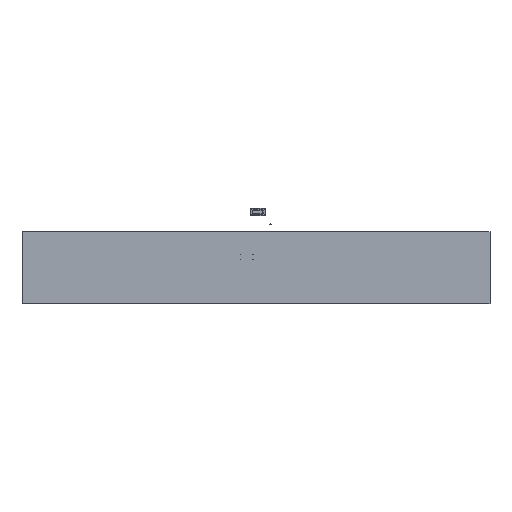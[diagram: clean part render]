
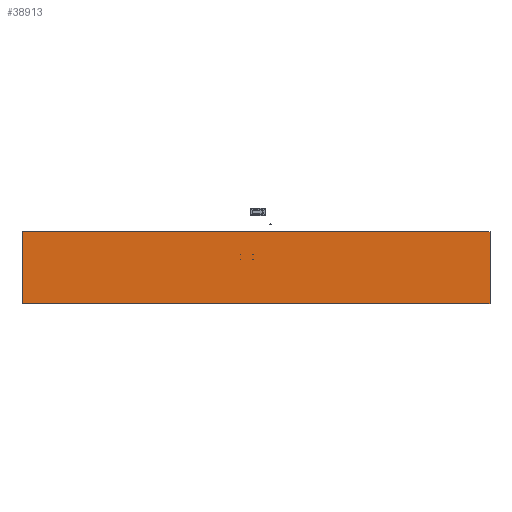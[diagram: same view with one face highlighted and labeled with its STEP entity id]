
A CAD part, front view. The second image highlights one B-rep face of the part: STEP entity #38913.
In plain terms, the highlighted planar face has unit normal (0, -1, 0).
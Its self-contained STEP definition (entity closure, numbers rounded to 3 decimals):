
#645 = DIRECTION ( 'NONE',  ( 0., 1., 0. ) ) ;
#2663 = CARTESIAN_POINT ( 'NONE',  ( -6500., -100., -1000. ) ) ;
#5107 = VECTOR ( 'NONE', #50094, 1000. ) ;
#5933 = ORIENTED_EDGE ( 'NONE', *, *, #34978, .T. ) ;
#7329 = EDGE_CURVE ( 'NONE', #56629, #15318, #90227, .T. ) ;
#8237 = DIRECTION ( 'NONE',  ( 0., 0., 1. ) ) ;
#8722 = VERTEX_POINT ( 'NONE', #83268 ) ;
#11464 = CIRCLE ( 'NONE', #25912, 5. ) ;
#11577 = VERTEX_POINT ( 'NONE', #63188 ) ;
#11610 = ORIENTED_EDGE ( 'NONE', *, *, #14356, .F. ) ;
#11662 = EDGE_CURVE ( 'NONE', #36016, #25795, #11464, .T. ) ;
#12088 = CARTESIAN_POINT ( 'NONE',  ( -85., -100., 375. ) ) ;
#12586 = EDGE_CURVE ( 'NONE', #56040, #8722, #59741, .T. ) ;
#13967 = VERTEX_POINT ( 'NONE', #30501 ) ;
#14177 = CARTESIAN_POINT ( 'NONE',  ( -85., -100., 365. ) ) ;
#14356 = EDGE_CURVE ( 'NONE', #16727, #71080, #36323, .T. ) ;
#14840 = DIRECTION ( 'NONE',  ( 0., 0., 1. ) ) ;
#15318 = VERTEX_POINT ( 'NONE', #12088 ) ;
#16727 = VERTEX_POINT ( 'NONE', #24708 ) ;
#17856 = DIRECTION ( 'NONE',  ( 0., 0., 1. ) ) ;
#18182 = CIRCLE ( 'NONE', #86808, 5. ) ;
#18250 = AXIS2_PLACEMENT_3D ( 'NONE', #36496, #44963, #75468 ) ;
#20164 = EDGE_CURVE ( 'NONE', #71080, #69695, #61664, .T. ) ;
#22571 = CIRCLE ( 'NONE', #32138, 5. ) ;
#22730 = FACE_BOUND ( 'NONE', #95982, .T. ) ;
#23024 = DIRECTION ( 'NONE',  ( 0., 1., 0. ) ) ;
#23684 = CIRCLE ( 'NONE', #89068, 5. ) ;
#24221 = CARTESIAN_POINT ( 'NONE',  ( -85., -100., 220. ) ) ;
#24708 = CARTESIAN_POINT ( 'NONE',  ( 6500., -100., 1000. ) ) ;
#25795 = VERTEX_POINT ( 'NONE', #67435 ) ;
#25912 = AXIS2_PLACEMENT_3D ( 'NONE', #24221, #78177, #77683 ) ;
#27684 = EDGE_CURVE ( 'NONE', #15318, #56629, #22571, .T. ) ;
#27691 = LINE ( 'NONE', #98141, #37239 ) ;
#27756 = CIRCLE ( 'NONE', #86771, 5. ) ;
#28276 = CARTESIAN_POINT ( 'NONE',  ( -435., -100., 370. ) ) ;
#28436 = AXIS2_PLACEMENT_3D ( 'NONE', #54180, #45704, #8237 ) ;
#28610 = DIRECTION ( 'NONE',  ( 0., 1., 0. ) ) ;
#29739 = FACE_BOUND ( 'NONE', #56977, .T. ) ;
#30501 = CARTESIAN_POINT ( 'NONE',  ( -6500., -100., 1000. ) ) ;
#30727 = FACE_BOUND ( 'NONE', #96029, .T. ) ;
#31138 = DIRECTION ( 'NONE',  ( 0., 0., 1. ) ) ;
#32138 = AXIS2_PLACEMENT_3D ( 'NONE', #76807, #84299, #14840 ) ;
#34831 = CARTESIAN_POINT ( 'NONE',  ( 6500., -100., -1000. ) ) ;
#34978 = EDGE_CURVE ( 'NONE', #25795, #36016, #18182, .T. ) ;
#36016 = VERTEX_POINT ( 'NONE', #87371 ) ;
#36323 = LINE ( 'NONE', #34831, #96854 ) ;
#36496 = CARTESIAN_POINT ( 'NONE',  ( -435., -100., 370. ) ) ;
#37239 = VECTOR ( 'NONE', #51654, 1000. ) ;
#37640 = CARTESIAN_POINT ( 'NONE',  ( -435., -100., 220. ) ) ;
#38002 = EDGE_CURVE ( 'NONE', #8722, #56040, #23684, .T. ) ;
#38483 = ORIENTED_EDGE ( 'NONE', *, *, #96561, .T. ) ;
#38913 = ADVANCED_FACE ( 'NONE', ( #22730, #30727, #69692, #29739, #53187 ), #83695, .F. ) ;
#41284 = ORIENTED_EDGE ( 'NONE', *, *, #95946, .T. ) ;
#44963 = DIRECTION ( 'NONE',  ( 0., 1., 0. ) ) ;
#45704 = DIRECTION ( 'NONE',  ( 0., 1., 0. ) ) ;
#46305 = ORIENTED_EDGE ( 'NONE', *, *, #38002, .T. ) ;
#46924 = CIRCLE ( 'NONE', #86837, 5. ) ;
#48444 = ORIENTED_EDGE ( 'NONE', *, *, #68722, .F. ) ;
#49130 = CARTESIAN_POINT ( 'NONE',  ( -6500., -100., 1000. ) ) ;
#50094 = DIRECTION ( 'NONE',  ( 1., 0., 0. ) ) ;
#51654 = DIRECTION ( 'NONE',  ( 0., 0., 1. ) ) ;
#53187 = FACE_OUTER_BOUND ( 'NONE', #75568, .T. ) ;
#54180 = CARTESIAN_POINT ( 'NONE',  ( 0., -100., 0. ) ) ;
#55833 = CARTESIAN_POINT ( 'NONE',  ( -85., -100., 370. ) ) ;
#56040 = VERTEX_POINT ( 'NONE', #76970 ) ;
#56622 = LINE ( 'NONE', #49130, #5107 ) ;
#56629 = VERTEX_POINT ( 'NONE', #14177 ) ;
#56636 = CARTESIAN_POINT ( 'NONE',  ( -6500., -100., -1000. ) ) ;
#56977 = EDGE_LOOP ( 'NONE', ( #5933, #82310 ) ) ;
#59611 = ORIENTED_EDGE ( 'NONE', *, *, #27684, .T. ) ;
#59646 = VECTOR ( 'NONE', #71126, 1000. ) ;
#59694 = ORIENTED_EDGE ( 'NONE', *, *, #20164, .F. ) ;
#59741 = CIRCLE ( 'NONE', #18250, 5. ) ;
#60428 = ORIENTED_EDGE ( 'NONE', *, *, #12586, .T. ) ;
#60957 = EDGE_LOOP ( 'NONE', ( #60428, #46305 ) ) ;
#61664 = LINE ( 'NONE', #2663, #59646 ) ;
#63188 = CARTESIAN_POINT ( 'NONE',  ( -435., -100., 225. ) ) ;
#64329 = ORIENTED_EDGE ( 'NONE', *, *, #7329, .T. ) ;
#65383 = EDGE_CURVE ( 'NONE', #13967, #16727, #56622, .T. ) ;
#67435 = CARTESIAN_POINT ( 'NONE',  ( -85., -100., 225. ) ) ;
#68722 = EDGE_CURVE ( 'NONE', #69695, #13967, #27691, .T. ) ;
#69692 = FACE_BOUND ( 'NONE', #60957, .T. ) ;
#69695 = VERTEX_POINT ( 'NONE', #56636 ) ;
#71080 = VERTEX_POINT ( 'NONE', #76458 ) ;
#71126 = DIRECTION ( 'NONE',  ( -1., 0., 0. ) ) ;
#72275 = DIRECTION ( 'NONE',  ( 0., 0., 1. ) ) ;
#75468 = DIRECTION ( 'NONE',  ( 0., 0., 1. ) ) ;
#75568 = EDGE_LOOP ( 'NONE', ( #11610, #87420, #48444, #59694 ) ) ;
#76458 = CARTESIAN_POINT ( 'NONE',  ( 6500., -100., -1000. ) ) ;
#76807 = CARTESIAN_POINT ( 'NONE',  ( -85., -100., 370. ) ) ;
#76970 = CARTESIAN_POINT ( 'NONE',  ( -435., -100., 375. ) ) ;
#77683 = DIRECTION ( 'NONE',  ( 0., 0., 1. ) ) ;
#78031 = VERTEX_POINT ( 'NONE', #86090 ) ;
#78177 = DIRECTION ( 'NONE',  ( 0., 1., 0. ) ) ;
#80806 = DIRECTION ( 'NONE',  ( 0., 0., -1. ) ) ;
#82310 = ORIENTED_EDGE ( 'NONE', *, *, #11662, .T. ) ;
#82983 = DIRECTION ( 'NONE',  ( 0., 0., 1. ) ) ;
#83268 = CARTESIAN_POINT ( 'NONE',  ( -435., -100., 365. ) ) ;
#83695 = PLANE ( 'NONE',  #28436 ) ;
#84299 = DIRECTION ( 'NONE',  ( 0., 1., 0. ) ) ;
#86090 = CARTESIAN_POINT ( 'NONE',  ( -435., -100., 215. ) ) ;
#86336 = DIRECTION ( 'NONE',  ( 0., 1., 0. ) ) ;
#86771 = AXIS2_PLACEMENT_3D ( 'NONE', #37640, #645, #31138 ) ;
#86808 = AXIS2_PLACEMENT_3D ( 'NONE', #90099, #28610, #97088 ) ;
#86837 = AXIS2_PLACEMENT_3D ( 'NONE', #91481, #23024, #82983 ) ;
#87371 = CARTESIAN_POINT ( 'NONE',  ( -85., -100., 215. ) ) ;
#87420 = ORIENTED_EDGE ( 'NONE', *, *, #65383, .F. ) ;
#88629 = AXIS2_PLACEMENT_3D ( 'NONE', #55833, #86336, #17856 ) ;
#89068 = AXIS2_PLACEMENT_3D ( 'NONE', #28276, #94798, #72275 ) ;
#90099 = CARTESIAN_POINT ( 'NONE',  ( -85., -100., 220. ) ) ;
#90227 = CIRCLE ( 'NONE', #88629, 5. ) ;
#91481 = CARTESIAN_POINT ( 'NONE',  ( -435., -100., 220. ) ) ;
#94798 = DIRECTION ( 'NONE',  ( 0., 1., 0. ) ) ;
#95946 = EDGE_CURVE ( 'NONE', #78031, #11577, #27756, .T. ) ;
#95982 = EDGE_LOOP ( 'NONE', ( #59611, #64329 ) ) ;
#96029 = EDGE_LOOP ( 'NONE', ( #38483, #41284 ) ) ;
#96561 = EDGE_CURVE ( 'NONE', #11577, #78031, #46924, .T. ) ;
#96854 = VECTOR ( 'NONE', #80806, 1000. ) ;
#97088 = DIRECTION ( 'NONE',  ( 0., 0., 1. ) ) ;
#98141 = CARTESIAN_POINT ( 'NONE',  ( -6500., -100., -1000. ) ) ;
